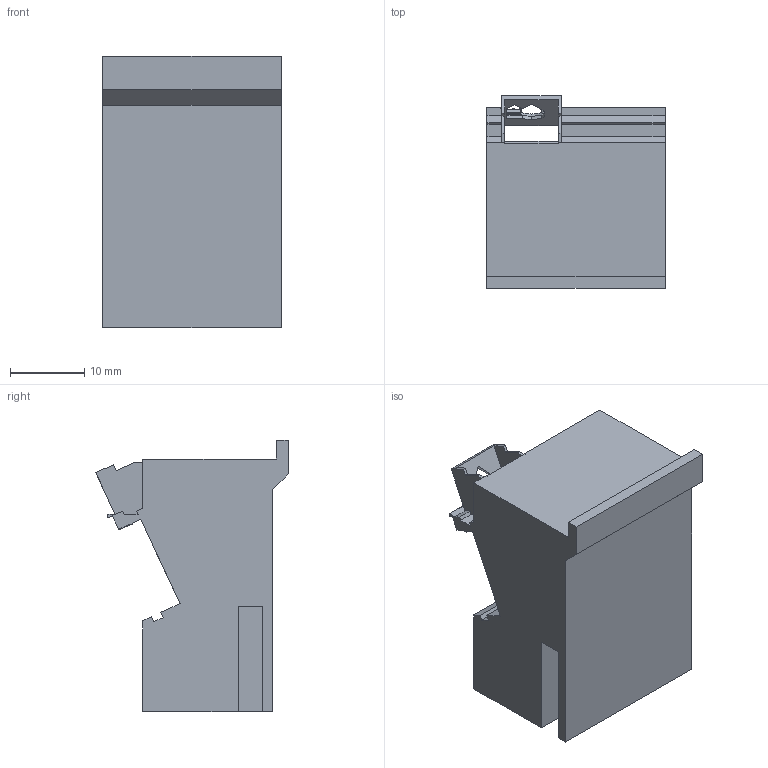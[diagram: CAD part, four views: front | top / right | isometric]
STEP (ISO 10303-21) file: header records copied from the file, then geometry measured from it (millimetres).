
FILE_DESCRIPTION(('Open CASCADE Model'),'2;1');
FILE_NAME('Open CASCADE Shape Model','2026-10-21T18:57:50',('Author'),( 'Open CASCADE'),'Open CASCADE STEP processor 8.0','build123d', 'Unknown');
FILE_SCHEMA(('AUTOMOTIVE_DESIGN { 1 0 10303 214 1 1 1 1 }'));
Length unit declared in the file: millimetre
Products named in the file (1): SOLID
Bounding box: 24 x 25.92 x 36.5 mm (x, y, z)
Volume: 13440.4 mm3; surface area: 4639.5 mm2
Topology: 1 solids, 1 shells, 170 faces, 481 edges, 310 vertices
Faces by surface type: plane 100, cylinder 69, bspline 1
Entity records: 12787 total; most frequent: CARTESIAN_POINT 3815, DIRECTION 1523, ORIENTED_EDGE 962, PCURVE 962, DEFINITIONAL_REPRESENTATION 962, LINE 681, VECTOR 681, EDGE_CURVE 481
